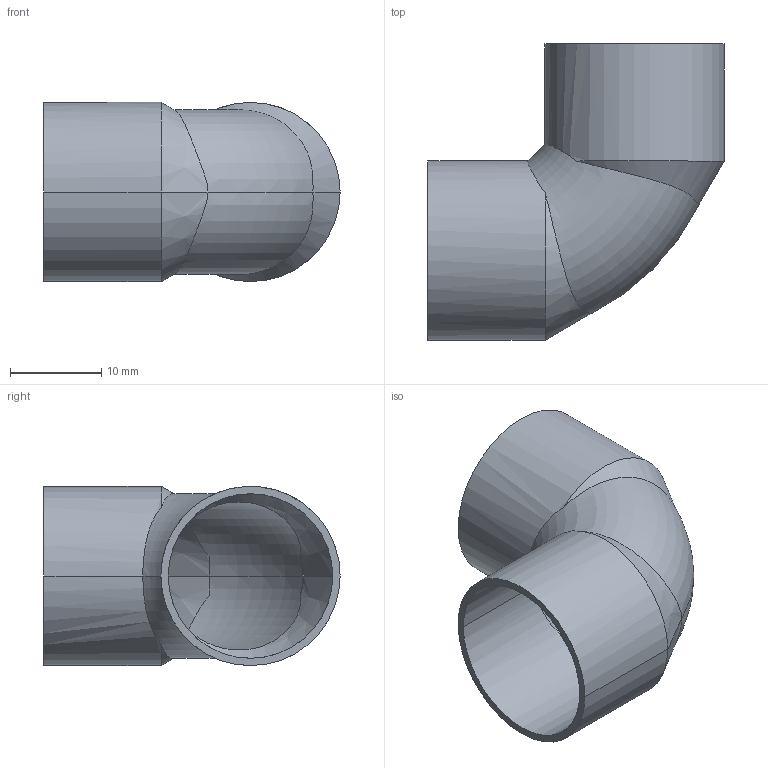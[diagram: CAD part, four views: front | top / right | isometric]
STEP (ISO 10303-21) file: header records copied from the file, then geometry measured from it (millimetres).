
FILE_DESCRIPTION((''),'2;1');
FILE_NAME('G:\SANHA-TERNAT\Technik\Deckel\UUU\Producttek\1509018\1509018(0).stp','2007-07-24T14:25:52',('vdvijverd'),(''),'Autodesk Inventor 8','Autodesk Inventor 8','');
FILE_SCHEMA(('AUTOMOTIVE_DESIGN { 1 0 10303 214 1 1 1 1 }'));
Length unit declared in the file: millimetre
Products named in the file (1): 1509018(0)
Bounding box: 32.4 x 32.4 x 19.6 mm (x, y, z)
Volume: 1858.3 mm3; surface area: 4604.6 mm2
Topology: 1 solids, 1 shells, 24 faces, 61 edges, 39 vertices
Faces by surface type: bspline 10, torus 4, cone 4, cylinder 4, plane 2
Entity records: 1049 total; most frequent: CARTESIAN_POINT 503, ORIENTED_EDGE 122, DIRECTION 92, EDGE_CURVE 61, AXIS2_PLACEMENT_3D 40, VERTEX_POINT 39, EDGE_LOOP 26, CIRCLE 25
